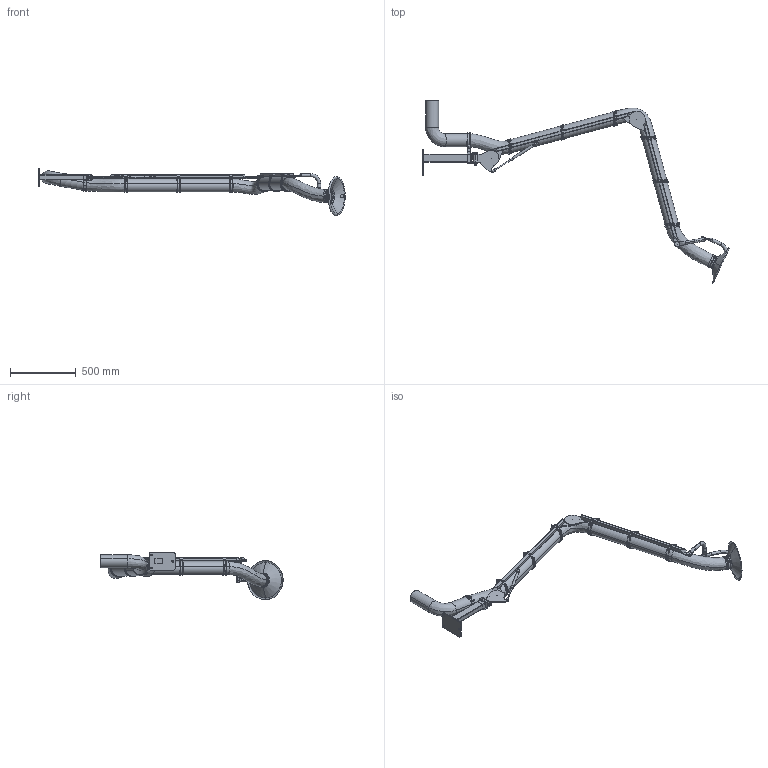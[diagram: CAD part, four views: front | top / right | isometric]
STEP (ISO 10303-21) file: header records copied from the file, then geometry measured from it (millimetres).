
FILE_DESCRIPTION((''),'2;1');
FILE_NAME('PSR_3000-100_EXC','2022-10-04T11:34:29',('Tomas Bellgran'),(''),'CREO PARAMETRIC BY PTC INC, 2018260','CREO PARAMETRIC BY PTC INC, 2018260','');
FILE_SCHEMA(('AUTOMOTIVE_DESIGN { 1 0 10303 214 1 1 1 1 }'));
Length unit declared in the file: millimetre
Products named in the file (36): 141558; 141580; 141581; 122701; 141514; 141560; 141582; 141587; 141524; 121391; 131150; 139380; 131151; 131170; 144356; 141589; 134343_AF0; G_P136_WELD-REF; 141590; 122717_LIGHT; 120127_COMPL_LIGHT; 130317; ROD_STAB_8-160-REF; 131095; 130322_AF1; 131145; 139635; 139656; 139614; 139630; 141634; 124460; 107521-11; 121000_LIGHT; 107521-20; PSR_3000-100_EXC
Assembly tree (53 placements, depth 3):
  PSR_3000-100_EXC
    141514
      141558
      141580
      141581
      122701
    141524
      141560
      141582
      141587
    121391  x4
    131150
    131170
      139380
      131151
    144356  x2
    141590
      141589
      134343_AF0
      G_P136_WELD-REF
    122717_LIGHT
    120127_COMPL_LIGHT
    130322_AF1
      130317
      ROD_STAB_8-160-REF
      131095  x2
    131145  x2
    139630
      139635  x3
      139656
      139614
    141634
    124460  x6
    107521-11  x6
    121000_LIGHT
    107521-20
Bounding box: 2333.14 x 1388.34 x 362.95 mm (x, y, z)
Volume: 28681575.8 mm3; surface area: 1978121.5 mm2
Topology: 47 solids, 47 shells, 1163 faces, 2776 edges, 1706 vertices
Faces by surface type: plane 425, cylinder 349, bspline 250, torus 70, cone 42, extrusion 25, sphere 2
Entity records: 39748 total; most frequent: CARTESIAN_POINT 14681, DIRECTION 3143, ORIENTED_EDGE 2954, PRESENTATION_STYLE_ASSIGNMENT 2067, STYLED_ITEM 2040, CURVE_STYLE 1492, EDGE_CURVE 1477, AXIS2_PLACEMENT_3D 1226
